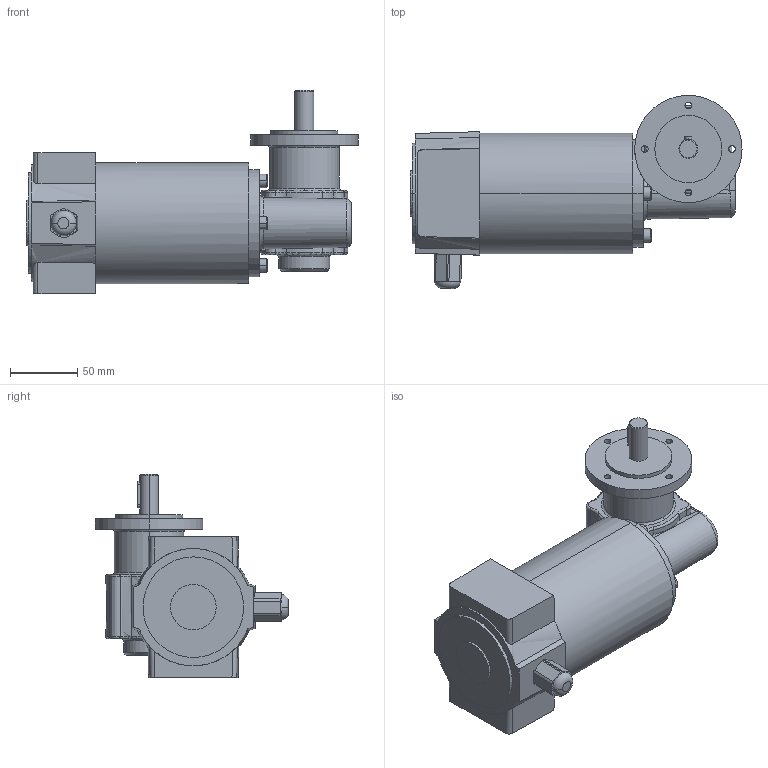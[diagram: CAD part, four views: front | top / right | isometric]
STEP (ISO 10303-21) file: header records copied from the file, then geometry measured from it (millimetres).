
FILE_DESCRIPTION(('OneSpaceDesigner STEP Export'),'2;1');
FILE_NAME('EPG21_GF133-10.stp','2008-07-10T 8:32:32',(''),(''),'OneSpace Designer STEP processor (Jan. 2003) for AP214(CD)(Solid Model)','OneSpace Designer 12.01D 09-Jul-2004 (C) CoCreate Software GmbH','');
FILE_SCHEMA(('AUTOMOTIVE_DESIGN_CC2 {1 2 10303 214 -1 1 5 1}'));
Length unit declared in the file: millimetre
Products named in the file (2): EPG21_GF133-10
Assembly tree (1 placements, depth 2):
  EPG21_GF133-10
    EPG21_GF133-10
Bounding box: 247.5 x 143.99 x 151.5 mm (x, y, z)
Volume: 1528270.4 mm3; surface area: 104560.4 mm2
Topology: 1 solids, 1 shells, 187 faces, 478 edges, 308 vertices
Faces by surface type: cylinder 52, plane 51, bspline 41, extrusion 25, cone 10, torus 8
Entity records: 16317 total; most frequent: CARTESIAN_POINT 12501, ORIENTED_EDGE 956, DIRECTION 492, EDGE_CURVE 478, VERTEX_POINT 308, EDGE_LOOP 210, FACE_OUTER_BOUND 187, ADVANCED_FACE 187
